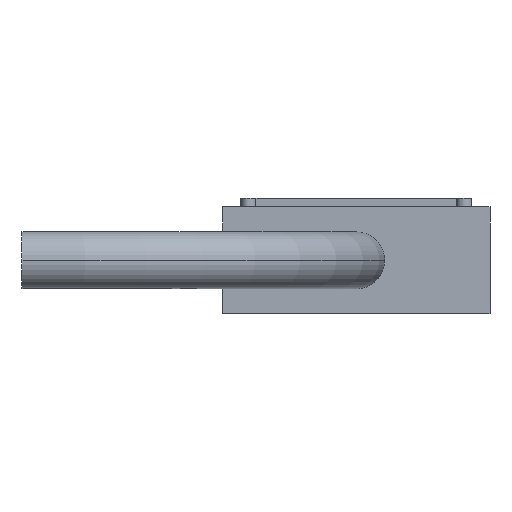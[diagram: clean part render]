
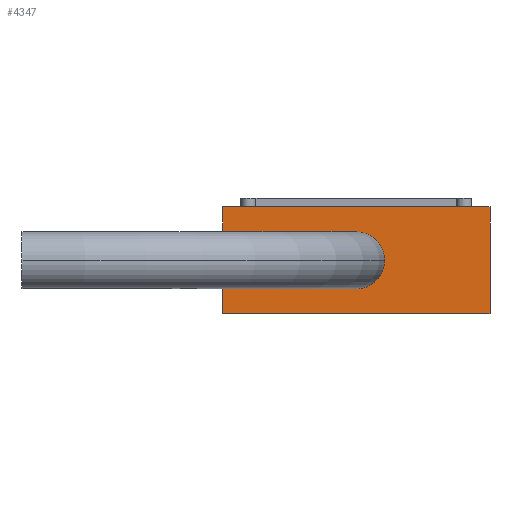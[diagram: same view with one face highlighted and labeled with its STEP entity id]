
A CAD part, front view. The second image highlights one B-rep face of the part: STEP entity #4347.
In plain terms, the highlighted planar face has unit normal (0, -1, 0).
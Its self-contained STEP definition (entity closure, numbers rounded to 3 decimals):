
#216 = PLANE ( 'NONE',  #911 ) ;
#217 = CARTESIAN_POINT ( 'NONE',  ( 0., 0., 0. ) ) ;
#218 = DIRECTION ( 'NONE',  ( 0., -1., 0. ) ) ;
#219 = DIRECTION ( 'NONE',  ( 0., 0., -1. ) ) ;
#566 = VERTEX_POINT ( 'NONE', #2428 ) ;
#567 = VERTEX_POINT ( 'NONE', #2429 ) ;
#569 = VERTEX_POINT ( 'NONE', #2431 ) ;
#911 = AXIS2_PLACEMENT_3D ( 'NONE', #217, #218, #219 ) ;
#914 = FACE_OUTER_BOUND ( 'NONE', #2183, .T. ) ;
#917 = FACE_BOUND ( 'NONE', #2182, .T. ) ;
#1074 = VECTOR ( 'NONE', #3912, 1000. ) ;
#1075 = VECTOR ( 'NONE', #3909, 1000. ) ;
#1077 = AXIS2_PLACEMENT_3D ( 'NONE', #3870, #3904, #3905 ) ;
#1137 = VECTOR ( 'NONE', #3113, 1000. ) ;
#1211 = AXIS2_PLACEMENT_3D ( 'NONE', #3338, #3339, #3340 ) ;
#1291 = VECTOR ( 'NONE', #3128, 1000. ) ;
#1500 = EDGE_CURVE ( 'NONE', #569, #1613, #3111, .T. ) ;
#1505 = EDGE_CURVE ( 'NONE', #566, #567, #3126, .T. ) ;
#1559 = EDGE_CURVE ( 'NONE', #1663, #1667, #4508, .T. ) ;
#1613 = VERTEX_POINT ( 'NONE', #3462 ) ;
#1663 = VERTEX_POINT ( 'NONE', #3512 ) ;
#1667 = VERTEX_POINT ( 'NONE', #3516 ) ;
#1721 = ORIENTED_EDGE ( 'NONE', *, *, #4275, .F. ) ;
#1722 = ORIENTED_EDGE ( 'NONE', *, *, #4273, .F. ) ;
#1723 = ORIENTED_EDGE ( 'NONE', *, *, #1505, .F. ) ;
#1724 = ORIENTED_EDGE ( 'NONE', *, *, #1559, .F. ) ;
#1725 = ORIENTED_EDGE ( 'NONE', *, *, #1500, .F. ) ;
#1727 = ORIENTED_EDGE ( 'NONE', *, *, #4274, .F. ) ;
#2182 = EDGE_LOOP ( 'NONE', ( #1722, #1724 ) ) ;
#2183 = EDGE_LOOP ( 'NONE', ( #1721, #1725, #1727, #1723 ) ) ;
#2428 = CARTESIAN_POINT ( 'NONE',  ( 20., 0., -8. ) ) ;
#2429 = CARTESIAN_POINT ( 'NONE',  ( -20., 0., -8. ) ) ;
#2431 = CARTESIAN_POINT ( 'NONE',  ( -20., 0., 8. ) ) ;
#3111 = LINE ( 'NONE', #3112, #1137 ) ;
#3112 = CARTESIAN_POINT ( 'NONE',  ( -20., 0., 8. ) ) ;
#3113 = DIRECTION ( 'NONE',  ( 1., 0., 0. ) ) ;
#3126 = LINE ( 'NONE', #3127, #1291 ) ;
#3127 = CARTESIAN_POINT ( 'NONE',  ( -20., 0., -8. ) ) ;
#3128 = DIRECTION ( 'NONE',  ( -1., 0., 0. ) ) ;
#3338 = CARTESIAN_POINT ( 'NONE',  ( 0., 0., 0. ) ) ;
#3339 = DIRECTION ( 'NONE',  ( 0., -1., 0. ) ) ;
#3340 = DIRECTION ( 'NONE',  ( 0., 0., -1. ) ) ;
#3462 = CARTESIAN_POINT ( 'NONE',  ( 20., 0., 8. ) ) ;
#3512 = CARTESIAN_POINT ( 'NONE',  ( 4.25, 0., 0. ) ) ;
#3516 = CARTESIAN_POINT ( 'NONE',  ( -4.25, 0., 0. ) ) ;
#3870 = CARTESIAN_POINT ( 'NONE',  ( 0., 0., 0. ) ) ;
#3904 = DIRECTION ( 'NONE',  ( 0., -1., 0. ) ) ;
#3905 = DIRECTION ( 'NONE',  ( 0., 0., -1. ) ) ;
#3907 = LINE ( 'NONE', #3908, #1075 ) ;
#3908 = CARTESIAN_POINT ( 'NONE',  ( -20., 0., 8. ) ) ;
#3909 = DIRECTION ( 'NONE',  ( 0., 0., 1. ) ) ;
#3910 = LINE ( 'NONE', #3911, #1074 ) ;
#3911 = CARTESIAN_POINT ( 'NONE',  ( 20., 0., 8. ) ) ;
#3912 = DIRECTION ( 'NONE',  ( 0., 0., -1. ) ) ;
#4273 = EDGE_CURVE ( 'NONE', #1667, #1663, #4538, .T. ) ;
#4274 = EDGE_CURVE ( 'NONE', #567, #569, #3907, .T. ) ;
#4275 = EDGE_CURVE ( 'NONE', #1613, #566, #3910, .T. ) ;
#4347 = ADVANCED_FACE ( 'NONE', ( #917, #914 ), #216, .T. ) ;
#4508 = CIRCLE ( 'NONE', #1211, 4.25 ) ;
#4538 = CIRCLE ( 'NONE', #1077, 4.25 ) ;
